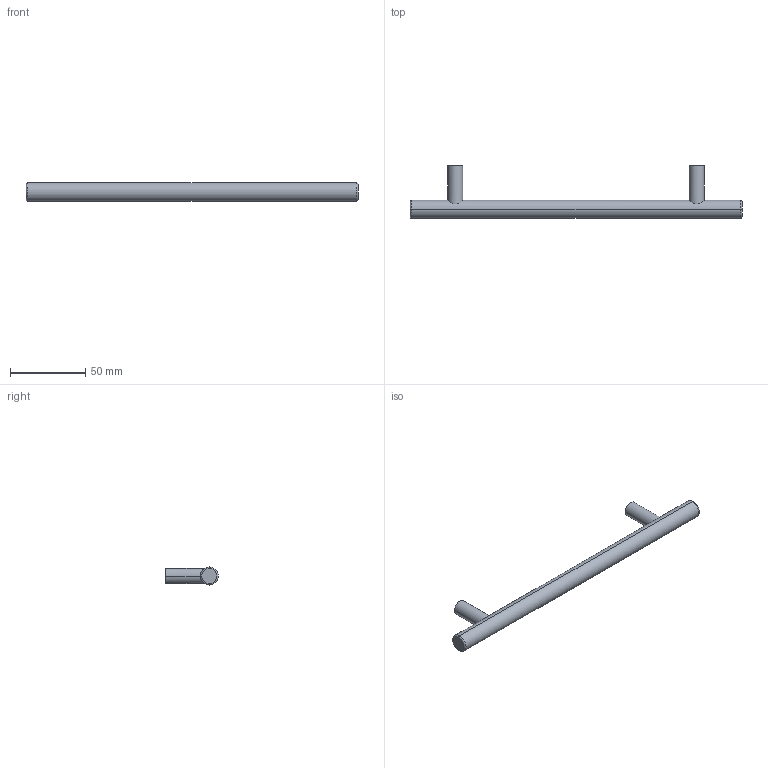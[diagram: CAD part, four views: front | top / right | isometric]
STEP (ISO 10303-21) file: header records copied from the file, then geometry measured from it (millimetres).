
FILE_DESCRIPTION( ( '' ), '1' );
FILE_NAME( 'C:/Documents and Settings/Sachin/Desktop/Sheet 10_1/stp/9070796.stp', '2013-10-22T12:30:27', ( '' ), ( '' ), ' ', ' ', ' ' );
FILE_SCHEMA( ( 'CONFIG_CONTROL_DESIGN' ) );
Length unit declared in the file: millimetre
Products named in the file (1): 1
Bounding box: 220 x 35 x 12 mm (x, y, z)
Volume: 28368.8 mm3; surface area: 10191.6 mm2
Topology: 1 solids, 1 shells, 20 faces, 44 edges, 30 vertices
Faces by surface type: cylinder 10, plane 6, torus 4
Entity records: 738 total; most frequent: CARTESIAN_POINT 229, DIRECTION 108, ORIENTED_EDGE 88, AXIS2_PLACEMENT_3D 49, EDGE_CURVE 44, VERTEX_POINT 30, CIRCLE 28, EDGE_LOOP 24
